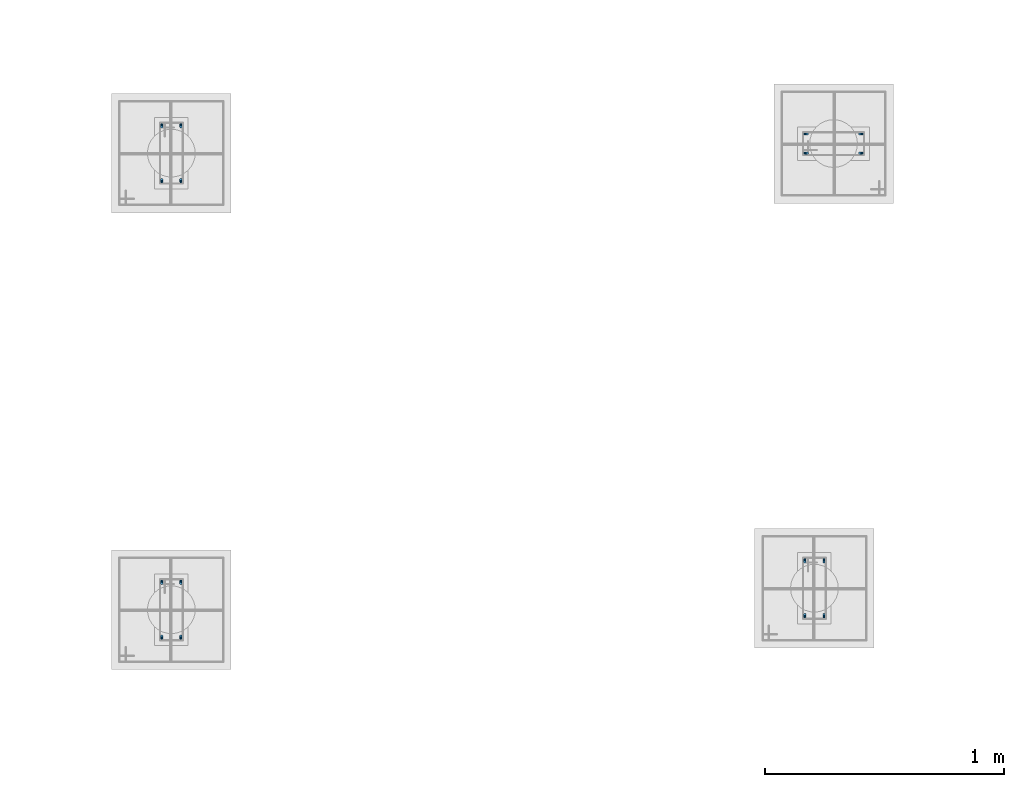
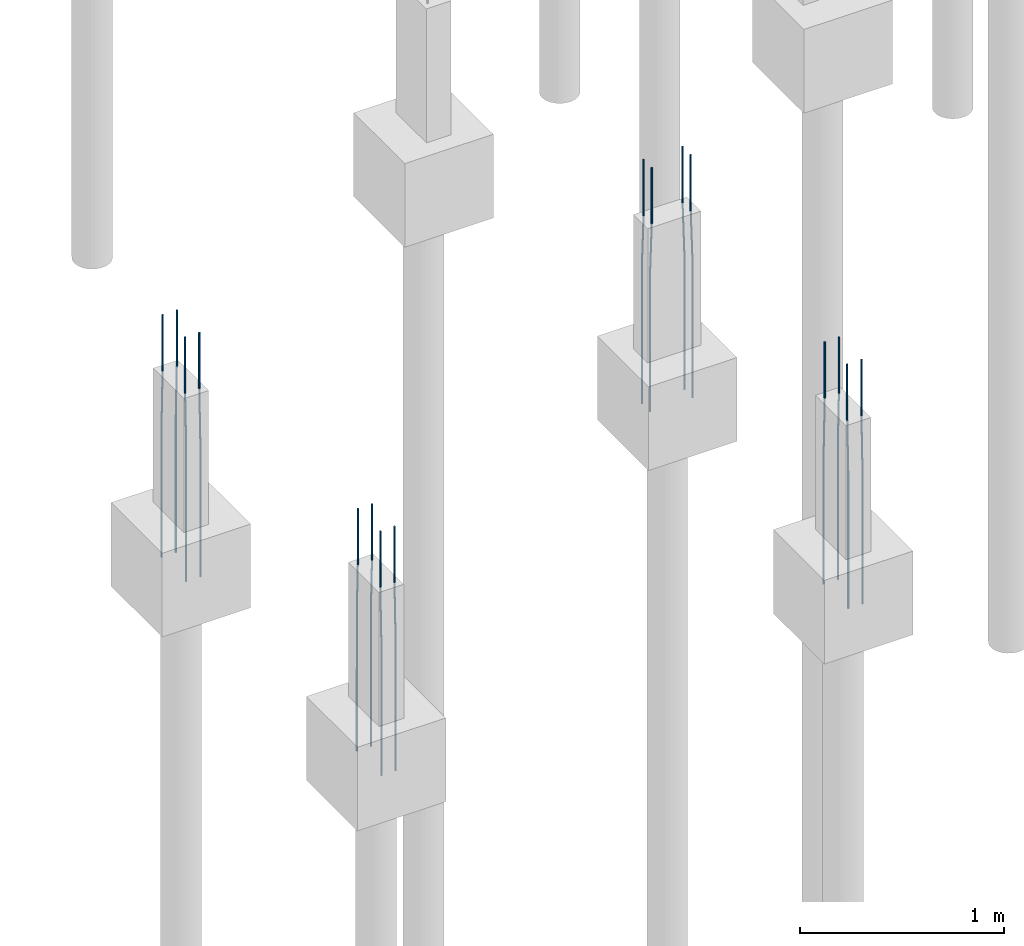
# One storey, part 19 of 119: 16 reinforcing bars.
"""IFC4 building model written with IfcOpenShell, lengths in centimetres."""

from ifc_helpers import new_model, entity, si_unit, derived_unit, frame, origin_with_axes, place, context, project, spatial, element, save


model = new_model("IFC4")

# Units and contexts
model_context = context("Model", 3, precision=1e-05, world=origin_with_axes(), identifier="Body")
ifc_project = project(units=[si_unit("LENGTHUNIT", "METRE", prefix="CENTI"), si_unit("VOLUMEUNIT", "CUBIC_METRE"), si_unit("AREAUNIT", "SQUARE_METRE"), si_unit("POWERUNIT", "WATT"), si_unit("LUMINOUSFLUXUNIT", "LUMEN"), si_unit("ELECTRICCURRENTUNIT", "AMPERE"), si_unit("PRESSUREUNIT", "PASCAL", prefix="KILO"), si_unit("MASSUNIT", "GRAM", prefix="KILO"), si_unit("PLANEANGLEUNIT", "RADIAN"), derived_unit("VOLUMETRICFLOWRATEUNIT", [(si_unit("LENGTHUNIT", "METRE"), 3), (si_unit("TIMEUNIT", "SECOND"), -1)])], contexts=[model_context])

# Site, building, storey
site_placement = place(None, frame((-4000.0, 0.0, 0.0), z_axis=(0.0, 0.0, 1.0), x_axis=(1.0, 0.0, 0.0)))
site = spatial("IfcSite", under=ifc_project, at=site_placement, Name="PADRÃO")
building_placement = place(site_placement, frame((0.0, 0.0, -14.0)))
building = spatial("IfcBuilding", under=site, at=building_placement, Name="CRECHE PRÉ-ESCOLA TIPO 2")
storey_placement = place(building_placement, origin_with_axes())
storey = spatial("IfcBuildingStorey", under=building, at=storey_placement, Name="FUNDAÇÃO", CompositionType="ELEMENT", Elevation=-14.0)

# Reinforcing bars
reinforcing_bar_1_placement = place(storey_placement, frame((2250.49, 1012.01, 33.3573001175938), z_axis=(0.0, 0.0, 1.0), x_axis=(1.0, 0.0, 0.0)))
element("IfcReinforcingBar", 1, at=reinforcing_bar_1_placement, inside=storey, Name="P121 - Longitudinal", BarLength=0.0, CrossSectionArea=7.853981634e-05, NominalDiameter=1.0, PredefinedType="MAIN", context=model_context, shape_type="AdvancedSweptSolid", body=[
    entity("IfcSweptDiskSolid", entity("IfcCompositeCurve", [entity("IfcCompositeCurveSegment", "CONTINUOUS", True, entity("IfcPolyline", [entity("IfcCartesianPoint", [0.0, -0.5, -145.357300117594]), entity("IfcCartesianPoint", [0.0, -0.5, -63.3573001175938])])), entity("IfcCompositeCurveSegment", "CONTINUOUS", True, entity("IfcPolyline", [entity("IfcCartesianPoint", [0.0, -0.5, -63.3573001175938]), entity("IfcCartesianPoint", [0.0, 0.5, -33.3573001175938])])), entity("IfcCompositeCurveSegment", "CONTINUOUS", True, entity("IfcPolyline", [entity("IfcCartesianPoint", [0.0, 0.5, -33.3573001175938]), entity("IfcCartesianPoint", [0.0, 0.5, 0.0])]))], False), 0.5),
])
for number, where, z_axis, x_axis, name in (
    (2, (2250.49, 1035.01, 33.3573001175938), (0.0, 0.0, 1.0), (1.0, 0.0, 0.0), "P121 - Longitudinal"),
    (3, (2258.49, 1035.01, 33.3573001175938), (0.0, 0.0, 1.0), (1.0, 0.0, 0.0), "P121 - Longitudinal"),
):
    element("IfcReinforcingBar", number, at=place(storey_placement, frame(where, z_axis=z_axis, x_axis=x_axis)), inside=storey, Name=name, BarLength=0.0, CrossSectionArea=7.853981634e-05, NominalDiameter=1.0, PredefinedType="MAIN", context=model_context, shape_type="AdvancedSweptSolid", body=[
        entity("IfcSweptDiskSolid", entity("IfcCompositeCurve", [entity("IfcCompositeCurveSegment", "CONTINUOUS", True, entity("IfcPolyline", [entity("IfcCartesianPoint", [0.0, 0.5, -145.357300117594]), entity("IfcCartesianPoint", [0.0, 0.5, -63.3573001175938])])), entity("IfcCompositeCurveSegment", "CONTINUOUS", True, entity("IfcPolyline", [entity("IfcCartesianPoint", [0.0, 0.5, -63.3573001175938]), entity("IfcCartesianPoint", [0.0, -0.5, -33.3573001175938])])), entity("IfcCompositeCurveSegment", "CONTINUOUS", True, entity("IfcPolyline", [entity("IfcCartesianPoint", [0.0, -0.5, -33.3573001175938]), entity("IfcCartesianPoint", [0.0, -0.5, 0.0])]))], False), 0.5),
    ])
reinforcing_bar_2_placement = place(storey_placement, frame((2258.49, 1012.01, 33.3573001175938), z_axis=(0.0, 0.0, 1.0), x_axis=(1.0, 0.0, 0.0)))
element("IfcReinforcingBar", 4, at=reinforcing_bar_2_placement, inside=storey, Name="P121 - Longitudinal", BarLength=0.0, CrossSectionArea=7.853981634e-05, NominalDiameter=1.0, PredefinedType="MAIN", context=model_context, shape_type="AdvancedSweptSolid", body=[
    entity("IfcSweptDiskSolid", entity("IfcCompositeCurve", [entity("IfcCompositeCurveSegment", "CONTINUOUS", True, entity("IfcPolyline", [entity("IfcCartesianPoint", [0.0, -0.5, -145.357300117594]), entity("IfcCartesianPoint", [0.0, -0.5, -63.3573001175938])])), entity("IfcCompositeCurveSegment", "CONTINUOUS", True, entity("IfcPolyline", [entity("IfcCartesianPoint", [0.0, -0.5, -63.3573001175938]), entity("IfcCartesianPoint", [0.0, 0.5, -33.3573001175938])])), entity("IfcCompositeCurveSegment", "CONTINUOUS", True, entity("IfcPolyline", [entity("IfcCartesianPoint", [0.0, 0.5, -33.3573001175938]), entity("IfcCartesianPoint", [0.0, 0.5, 0.0])]))], False), 0.5),
])
reinforcing_bar_3_placement = place(storey_placement, frame((2520.0, 1031.52, 33.3573001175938), z_axis=(0.0, 0.0, 1.0), x_axis=(1.0, 0.0, 0.0)))
element("IfcReinforcingBar", 5, at=reinforcing_bar_3_placement, inside=storey, Name="P122 - Longitudinal", BarLength=0.0, CrossSectionArea=7.853981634e-05, NominalDiameter=1.0, PredefinedType="MAIN", context=model_context, shape_type="AdvancedSweptSolid", body=[
    entity("IfcSweptDiskSolid", entity("IfcCompositeCurve", [entity("IfcCompositeCurveSegment", "CONTINUOUS", True, entity("IfcPolyline", [entity("IfcCartesianPoint", [-0.5, 0.0, -145.357300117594]), entity("IfcCartesianPoint", [-0.5, 0.0, -63.3573001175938])])), entity("IfcCompositeCurveSegment", "CONTINUOUS", True, entity("IfcPolyline", [entity("IfcCartesianPoint", [-0.5, 0.0, -63.3573001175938]), entity("IfcCartesianPoint", [0.5, 0.0, -33.3573001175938])])), entity("IfcCompositeCurveSegment", "CONTINUOUS", True, entity("IfcPolyline", [entity("IfcCartesianPoint", [0.5, 0.0, -33.3573001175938]), entity("IfcCartesianPoint", [0.5, 0.0, 0.0])]))], False), 0.5),
])
for number, where, z_axis, x_axis, name in (
    (6, (2543.0, 1031.52, 33.3573001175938), (0.0, 0.0, 1.0), (1.0, 0.0, 0.0), "P122 - Longitudinal"),
    (7, (2543.0, 1023.52, 33.3573001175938), (0.0, 0.0, 1.0), (1.0, 0.0, 0.0), "P122 - Longitudinal"),
):
    element("IfcReinforcingBar", number, at=place(storey_placement, frame(where, z_axis=z_axis, x_axis=x_axis)), inside=storey, Name=name, BarLength=0.0, CrossSectionArea=7.853981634e-05, NominalDiameter=1.0, PredefinedType="MAIN", context=model_context, shape_type="AdvancedSweptSolid", body=[
        entity("IfcSweptDiskSolid", entity("IfcCompositeCurve", [entity("IfcCompositeCurveSegment", "CONTINUOUS", True, entity("IfcPolyline", [entity("IfcCartesianPoint", [0.5, 0.0, -145.357300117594]), entity("IfcCartesianPoint", [0.5, 0.0, -63.3573001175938])])), entity("IfcCompositeCurveSegment", "CONTINUOUS", True, entity("IfcPolyline", [entity("IfcCartesianPoint", [0.5, 0.0, -63.3573001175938]), entity("IfcCartesianPoint", [-0.5, 0.0, -33.3573001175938])])), entity("IfcCompositeCurveSegment", "CONTINUOUS", True, entity("IfcPolyline", [entity("IfcCartesianPoint", [-0.5, 0.0, -33.3573001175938]), entity("IfcCartesianPoint", [-0.5, 0.0, 0.0])]))], False), 0.5),
    ])
reinforcing_bar_4_placement = place(storey_placement, frame((2520.0, 1023.52, 33.3573001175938), z_axis=(0.0, 0.0, 1.0), x_axis=(1.0, 0.0, 0.0)))
element("IfcReinforcingBar", 8, at=reinforcing_bar_4_placement, inside=storey, Name="P122 - Longitudinal", BarLength=0.0, CrossSectionArea=7.853981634e-05, NominalDiameter=1.0, PredefinedType="MAIN", context=model_context, shape_type="AdvancedSweptSolid", body=[
    entity("IfcSweptDiskSolid", entity("IfcCompositeCurve", [entity("IfcCompositeCurveSegment", "CONTINUOUS", True, entity("IfcPolyline", [entity("IfcCartesianPoint", [-0.5, 0.0, -145.357300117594]), entity("IfcCartesianPoint", [-0.5, 0.0, -63.3573001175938])])), entity("IfcCompositeCurveSegment", "CONTINUOUS", True, entity("IfcPolyline", [entity("IfcCartesianPoint", [-0.5, 0.0, -63.3573001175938]), entity("IfcCartesianPoint", [0.5, 0.0, -33.3573001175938])])), entity("IfcCompositeCurveSegment", "CONTINUOUS", True, entity("IfcPolyline", [entity("IfcCartesianPoint", [0.5, 0.0, -33.3573001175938]), entity("IfcCartesianPoint", [0.5, 0.0, 0.0])]))], False), 0.5),
])
for number, where, z_axis, x_axis, name in (
    (9, (2250.49, 844.02, 33.3573001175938), (0.0, 0.0, 1.0), (1.0, 0.0, 0.0), "P128 - Longitudinal"),
    (10, (2258.49, 844.02, 33.3573001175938), (0.0, 0.0, 1.0), (1.0, 0.0, 0.0), "P128 - Longitudinal"),
):
    element("IfcReinforcingBar", number, at=place(storey_placement, frame(where, z_axis=z_axis, x_axis=x_axis)), inside=storey, Name=name, BarLength=0.0, CrossSectionArea=7.853981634e-05, NominalDiameter=1.0, PredefinedType="MAIN", context=model_context, shape_type="AdvancedSweptSolid", body=[
        entity("IfcSweptDiskSolid", entity("IfcCompositeCurve", [entity("IfcCompositeCurveSegment", "CONTINUOUS", True, entity("IfcPolyline", [entity("IfcCartesianPoint", [0.0, 0.5, -145.357300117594]), entity("IfcCartesianPoint", [0.0, 0.5, -63.3573001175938])])), entity("IfcCompositeCurveSegment", "CONTINUOUS", True, entity("IfcPolyline", [entity("IfcCartesianPoint", [0.0, 0.5, -63.3573001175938]), entity("IfcCartesianPoint", [0.0, -0.5, -33.3573001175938])])), entity("IfcCompositeCurveSegment", "CONTINUOUS", True, entity("IfcPolyline", [entity("IfcCartesianPoint", [0.0, -0.5, -33.3573001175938]), entity("IfcCartesianPoint", [0.0, -0.5, 0.0])]))], False), 0.5),
    ])
for number, where, z_axis, x_axis, name in (
    (11, (2258.49, 821.02, 33.3573001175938), (0.0, 0.0, 1.0), (1.0, 0.0, 0.0), "P128 - Longitudinal"),
    (12, (2250.49, 821.02, 33.3573001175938), (0.0, 0.0, 1.0), (1.0, 0.0, 0.0), "P128 - Longitudinal"),
):
    element("IfcReinforcingBar", number, at=place(storey_placement, frame(where, z_axis=z_axis, x_axis=x_axis)), inside=storey, Name=name, BarLength=0.0, CrossSectionArea=7.853981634e-05, NominalDiameter=1.0, PredefinedType="MAIN", context=model_context, shape_type="AdvancedSweptSolid", body=[
        entity("IfcSweptDiskSolid", entity("IfcCompositeCurve", [entity("IfcCompositeCurveSegment", "CONTINUOUS", True, entity("IfcPolyline", [entity("IfcCartesianPoint", [0.0, -0.5, -145.357300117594]), entity("IfcCartesianPoint", [0.0, -0.5, -63.3573001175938])])), entity("IfcCompositeCurveSegment", "CONTINUOUS", True, entity("IfcPolyline", [entity("IfcCartesianPoint", [0.0, -0.5, -63.3573001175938]), entity("IfcCartesianPoint", [0.0, 0.5, -33.3573001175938])])), entity("IfcCompositeCurveSegment", "CONTINUOUS", True, entity("IfcPolyline", [entity("IfcCartesianPoint", [0.0, 0.5, -33.3573001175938]), entity("IfcCartesianPoint", [0.0, 0.5, 0.0])]))], False), 0.5),
    ])
for number, where, z_axis, x_axis, name in (
    (13, (2527.5, 853.02, 33.3573001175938), (0.0, 0.0, 1.0), (1.0, 0.0, 0.0), "P129 - Longitudinal"),
    (14, (2519.5, 853.02, 33.3573001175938), (0.0, 0.0, 1.0), (1.0, 0.0, 0.0), "P129 - Longitudinal"),
):
    element("IfcReinforcingBar", number, at=place(storey_placement, frame(where, z_axis=z_axis, x_axis=x_axis)), inside=storey, Name=name, BarLength=0.0, CrossSectionArea=7.853981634e-05, NominalDiameter=1.0, PredefinedType="MAIN", context=model_context, shape_type="AdvancedSweptSolid", body=[
        entity("IfcSweptDiskSolid", entity("IfcCompositeCurve", [entity("IfcCompositeCurveSegment", "CONTINUOUS", True, entity("IfcPolyline", [entity("IfcCartesianPoint", [0.0, 0.5, -145.357300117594]), entity("IfcCartesianPoint", [0.0, 0.5, -63.3573001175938])])), entity("IfcCompositeCurveSegment", "CONTINUOUS", True, entity("IfcPolyline", [entity("IfcCartesianPoint", [0.0, 0.5, -63.3573001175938]), entity("IfcCartesianPoint", [0.0, -0.5, -33.3573001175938])])), entity("IfcCompositeCurveSegment", "CONTINUOUS", True, entity("IfcPolyline", [entity("IfcCartesianPoint", [0.0, -0.5, -33.3573001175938]), entity("IfcCartesianPoint", [0.0, -0.5, 0.0])]))], False), 0.5),
    ])
for number, where, z_axis, x_axis, name in (
    (15, (2527.5, 830.02, 33.3573001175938), (0.0, 0.0, 1.0), (1.0, 0.0, 0.0), "P129 - Longitudinal"),
    (16, (2519.5, 830.02, 33.3573001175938), (0.0, 0.0, 1.0), (1.0, 0.0, 0.0), "P129 - Longitudinal"),
):
    element("IfcReinforcingBar", number, at=place(storey_placement, frame(where, z_axis=z_axis, x_axis=x_axis)), inside=storey, Name=name, BarLength=0.0, CrossSectionArea=7.853981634e-05, NominalDiameter=1.0, PredefinedType="MAIN", context=model_context, shape_type="AdvancedSweptSolid", body=[
        entity("IfcSweptDiskSolid", entity("IfcCompositeCurve", [entity("IfcCompositeCurveSegment", "CONTINUOUS", True, entity("IfcPolyline", [entity("IfcCartesianPoint", [0.0, -0.5, -145.357300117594]), entity("IfcCartesianPoint", [0.0, -0.5, -63.3573001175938])])), entity("IfcCompositeCurveSegment", "CONTINUOUS", True, entity("IfcPolyline", [entity("IfcCartesianPoint", [0.0, -0.5, -63.3573001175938]), entity("IfcCartesianPoint", [0.0, 0.5, -33.3573001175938])])), entity("IfcCompositeCurveSegment", "CONTINUOUS", True, entity("IfcPolyline", [entity("IfcCartesianPoint", [0.0, 0.5, -33.3573001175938]), entity("IfcCartesianPoint", [0.0, 0.5, 0.0])]))], False), 0.5),
    ])

save(model, "model.ifc")
